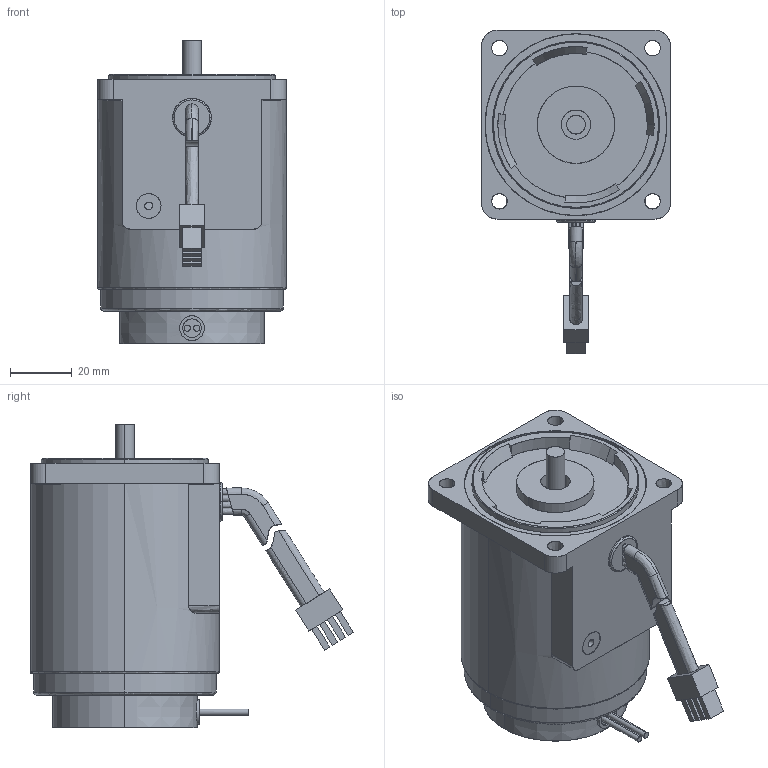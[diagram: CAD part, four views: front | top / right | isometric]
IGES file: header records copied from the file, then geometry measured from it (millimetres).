
Start section: SolidWorks IGES file using analytic representation for surfaces
Global section: file name: \\Lg-nas\楷备俺惯夯何\2014-2015斥档\002. 档搁\09. 2015 权其捞瘤 档搁\7. SPEED INDUCTION\60\6W\(7-2) 6SDG∴-6G.IGS; native system: SolidWorks 2007; preprocessor: SolidWorks 2007; author: user; date: 150710.144022; units: millimetre
Bounding box: 61 x 104.4 x 98 mm (x, y, z)
Surface area: 47967.3 mm2 (no closed solid volume)
Topology: 0 solids, 0 shells, 194 faces, 3929 edges, 3929 vertices
Faces by surface type: bspline 105, revolution 89
